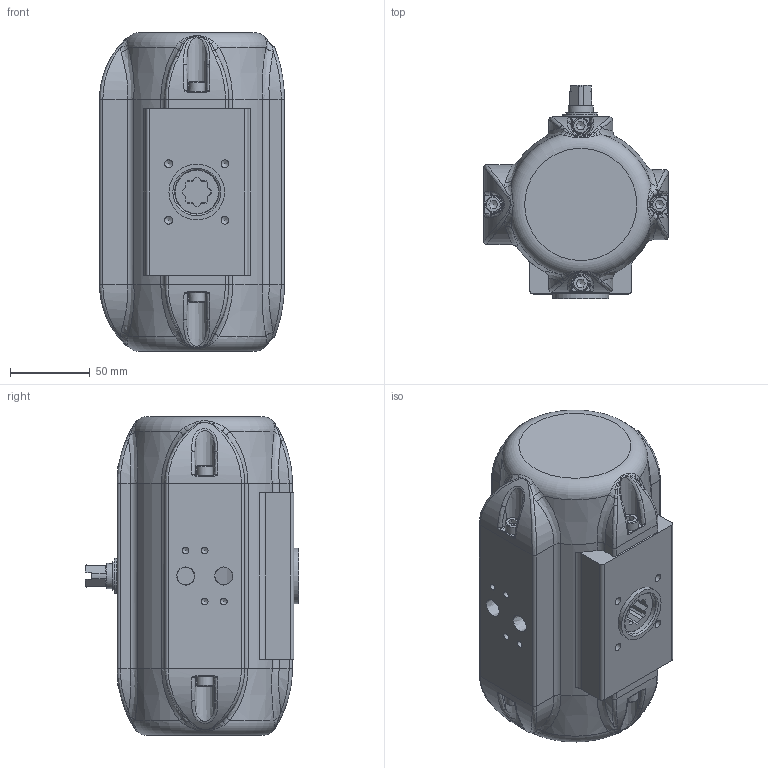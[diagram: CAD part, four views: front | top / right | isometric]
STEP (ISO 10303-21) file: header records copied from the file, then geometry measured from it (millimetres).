
FILE_DESCRIPTION((''),'2;1');
FILE_NAME('C:\Dokumente und Einstellungen\kir\Desktop\STEP IGES\SAF\SAF 15 BR03.stp','2006-12-19T10:44:46',('kir'),(''),'Autodesk Inventor 10','Autodesk Inventor 10','');
FILE_SCHEMA(('AUTOMOTIVE_DESIGN { 1 0 10303 214 1 1 1 1 }'));
Length unit declared in the file: millimetre
Products named in the file (1): ENG-039882
Bounding box: 116 x 134 x 200.3 mm (x, y, z)
Volume: 624243.3 mm3; surface area: 174122.4 mm2
Topology: 18 solids, 18 shells, 715 faces, 1763 edges, 1103 vertices
Faces by surface type: bspline 257, plane 215, cylinder 159, cone 58, torus 22, sphere 4
Full cylindrical faces by diameter (mm): 1.7 x2, 4.917 x4, 6 x8, 6.5 x6, 10 x8, 11.8 x1, 12 x1, 14 x1, 14.9 x1, 15.8 x3, 16.1 x1, 20 x1, 22 x1, 23.8 x1, 24 x1, 27.8 x3, 35 x1, 82 x1, 89.646 x2
Entity records: 38241 total; most frequent: CARTESIAN_POINT 24028, ORIENTED_EDGE 3014, DIRECTION 2526, EDGE_CURVE 1507, AXIS2_PLACEMENT_3D 1042, VERTEX_POINT 993, EDGE_LOOP 906, FACE_OUTER_BOUND 715
